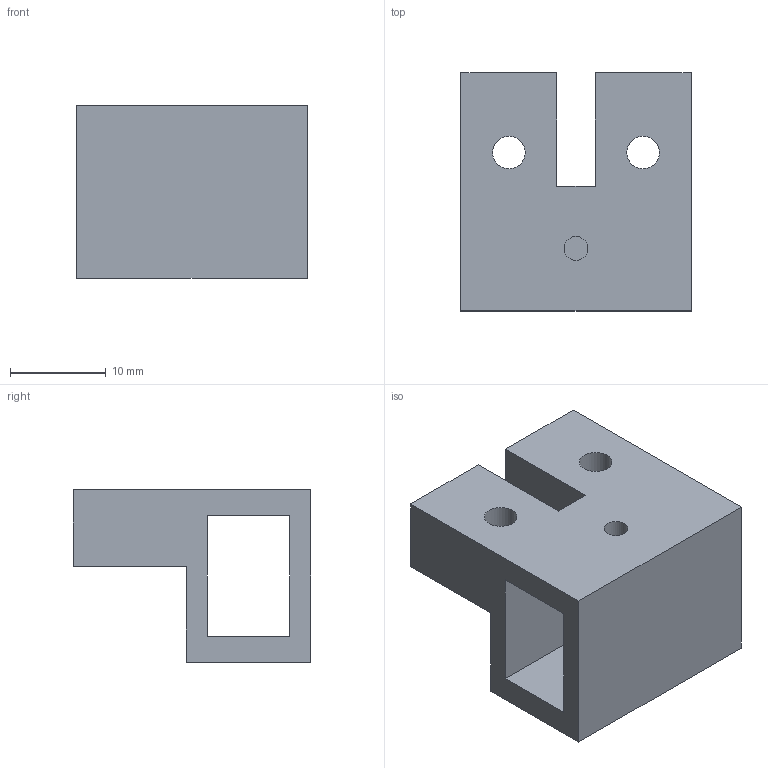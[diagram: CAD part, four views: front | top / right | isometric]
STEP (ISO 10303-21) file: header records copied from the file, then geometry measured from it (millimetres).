
FILE_DESCRIPTION(('Open CASCADE Model'),'2;1');
FILE_NAME('Open CASCADE Shape Model','2026-09-20T05:39:32',('Author'),( 'Open CASCADE'),'Open CASCADE STEP processor 7.9','Open CASCADE 7.9' ,'Unknown');
FILE_SCHEMA(('AUTOMOTIVE_DESIGN { 1 0 10303 214 1 1 1 1 }'));
Length unit declared in the file: millimetre
Products named in the file (1): Open CASCADE STEP translator 7.9 2
Bounding box: 24 x 24.8 x 18 mm (x, y, z)
Volume: 4650.6 mm3; surface area: 3798.3 mm2
Topology: 1 solids, 1 shells, 33 faces, 87 edges, 58 vertices
Faces by surface type: plane 30, cylinder 3
Full cylindrical faces by diameter (mm): 2.5 x1, 3.4 x2
Entity records: 2126 total; most frequent: CARTESIAN_POINT 391, DIRECTION 297, LINE 211, VECTOR 211, ORIENTED_EDGE 174, PCURVE 174, DEFINITIONAL_REPRESENTATION 174, EDGE_CURVE 87
